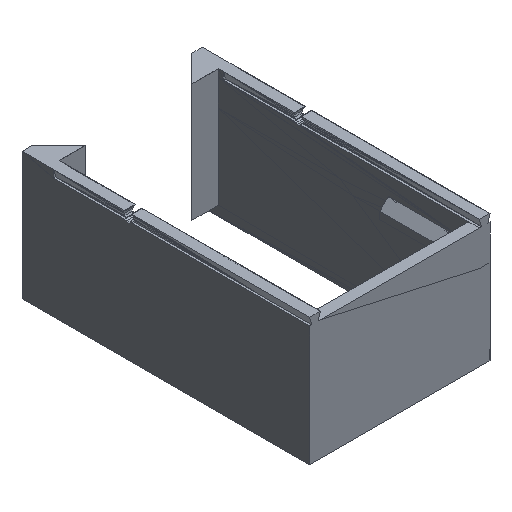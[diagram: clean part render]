
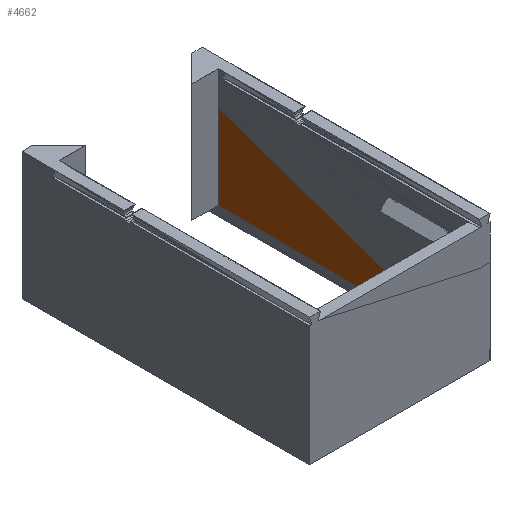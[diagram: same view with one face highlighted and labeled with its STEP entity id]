
A CAD part, isometric view. The second image highlights one B-rep face of the part: STEP entity #4662.
In plain terms, the highlighted planar face has unit normal (1, 0, 0).
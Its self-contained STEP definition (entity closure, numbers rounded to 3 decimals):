
#3522 = VERTEX_POINT('',#3523);
#3523 = CARTESIAN_POINT('',(14.9,19.95,
    -62.416));
#4596 = PLANE('',#4597);
#4597 = AXIS2_PLACEMENT_3D('',#4598,#4599,#4600);
#4598 = CARTESIAN_POINT('',(14.9,42.851,
    -52.693));
#4599 = DIRECTION('',(-1.,-0.,-0.));
#4600 = DIRECTION('',(0.,0.,-1.));
#4612 = VERTEX_POINT('',#4613);
#4613 = CARTESIAN_POINT('',(14.9,66.85,
    -46.2));
#4638 = EDGE_CURVE('',#4612,#3522,#4639,.T.);
#4639 = SURFACE_CURVE('',#4640,(#4644,#4651),.PCURVE_S1.);
#4640 = LINE('',#4641,#4642);
#4641 = CARTESIAN_POINT('',(14.9,66.85,
    -46.2));
#4642 = VECTOR('',#4643,1.);
#4643 = DIRECTION('',(0.,-0.945,-0.327));
#4644 = PCURVE('',#4596,#4645);
#4645 = DEFINITIONAL_REPRESENTATION('',(#4646),#4650);
#4646 = LINE('',#4647,#4648);
#4647 = CARTESIAN_POINT('',(-6.493,-23.999));
#4648 = VECTOR('',#4649,1.);
#4649 = DIRECTION('',(0.327,0.945));
#4650 = ( GEOMETRIC_REPRESENTATION_CONTEXT(2) 
PARAMETRIC_REPRESENTATION_CONTEXT() REPRESENTATION_CONTEXT('2D SPACE',''
  ) );
#4651 = PCURVE('',#4652,#4657);
#4652 = PLANE('',#4653);
#4653 = AXIS2_PLACEMENT_3D('',#4654,#4655,#4656);
#4654 = CARTESIAN_POINT('',(14.9,46.69,
    -57.565));
#4655 = DIRECTION('',(-1.,-0.,-0.));
#4656 = DIRECTION('',(0.,0.,-1.));
#4657 = DEFINITIONAL_REPRESENTATION('',(#4658),#4661);
#4658 = B_SPLINE_CURVE_WITH_KNOTS('',1,(#4659,#4660),.UNSPECIFIED.,.F.,
  .F.,(2,2),(0.,49.624),.PIECEWISE_BEZIER_KNOTS.);
#4659 = CARTESIAN_POINT('',(-11.365,-20.16));
#4660 = CARTESIAN_POINT('',(4.851,26.74));
#4661 = ( GEOMETRIC_REPRESENTATION_CONTEXT(2) 
PARAMETRIC_REPRESENTATION_CONTEXT() REPRESENTATION_CONTEXT('2D SPACE',''
  ) );
#4662 = ADVANCED_FACE('',(#4663),#4652,.F.);
#4663 = FACE_BOUND('',#4664,.F.);
#4664 = EDGE_LOOP('',(#4665,#4666,#4694));
#4665 = ORIENTED_EDGE('',*,*,#4638,.F.);
#4666 = ORIENTED_EDGE('',*,*,#4667,.T.);
#4667 = EDGE_CURVE('',#4612,#4668,#4670,.T.);
#4668 = VERTEX_POINT('',#4669);
#4669 = CARTESIAN_POINT('',(14.9,66.85,
    -61.95));
#4670 = SURFACE_CURVE('',#4671,(#4675,#4682),.PCURVE_S1.);
#4671 = LINE('',#4672,#4673);
#4672 = CARTESIAN_POINT('',(14.9,66.85,
    -46.2));
#4673 = VECTOR('',#4674,1.);
#4674 = DIRECTION('',(0.,0.,-1.));
#4675 = PCURVE('',#4652,#4676);
#4676 = DEFINITIONAL_REPRESENTATION('',(#4677),#4681);
#4677 = LINE('',#4678,#4679);
#4678 = CARTESIAN_POINT('',(-11.365,-20.16));
#4679 = VECTOR('',#4680,1.);
#4680 = DIRECTION('',(1.,0.));
#4681 = ( GEOMETRIC_REPRESENTATION_CONTEXT(2) 
PARAMETRIC_REPRESENTATION_CONTEXT() REPRESENTATION_CONTEXT('2D SPACE',''
  ) );
#4682 = PCURVE('',#4683,#4688);
#4683 = PLANE('',#4684);
#4684 = AXIS2_PLACEMENT_3D('',#4685,#4686,#4687);
#4685 = CARTESIAN_POINT('',(13.466,66.85,
    -55.126));
#4686 = DIRECTION('',(-0.,-1.,-0.));
#4687 = DIRECTION('',(0.,0.,-1.));
#4688 = DEFINITIONAL_REPRESENTATION('',(#4689),#4693);
#4689 = LINE('',#4690,#4691);
#4690 = CARTESIAN_POINT('',(-8.926,1.434));
#4691 = VECTOR('',#4692,1.);
#4692 = DIRECTION('',(1.,0.));
#4693 = ( GEOMETRIC_REPRESENTATION_CONTEXT(2) 
PARAMETRIC_REPRESENTATION_CONTEXT() REPRESENTATION_CONTEXT('2D SPACE',''
  ) );
#4694 = ORIENTED_EDGE('',*,*,#4695,.F.);
#4695 = EDGE_CURVE('',#3522,#4668,#4696,.T.);
#4696 = SURFACE_CURVE('',#4697,(#4701,#4707),.PCURVE_S1.);
#4697 = LINE('',#4698,#4699);
#4698 = CARTESIAN_POINT('',(14.9,19.95,
    -62.416));
#4699 = VECTOR('',#4700,1.);
#4700 = DIRECTION('',(0.,1.,0.01));
#4701 = PCURVE('',#4652,#4702);
#4702 = DEFINITIONAL_REPRESENTATION('',(#4703),#4706);
#4703 = B_SPLINE_CURVE_WITH_KNOTS('',1,(#4704,#4705),.UNSPECIFIED.,.F.,
  .F.,(2,2),(0.,46.902),.PIECEWISE_BEZIER_KNOTS.);
#4704 = CARTESIAN_POINT('',(4.851,26.74));
#4705 = CARTESIAN_POINT('',(4.385,-20.16));
#4706 = ( GEOMETRIC_REPRESENTATION_CONTEXT(2) 
PARAMETRIC_REPRESENTATION_CONTEXT() REPRESENTATION_CONTEXT('2D SPACE',''
  ) );
#4707 = PCURVE('',#4708,#4713);
#4708 = PLANE('',#4709);
#4709 = AXIS2_PLACEMENT_3D('',#4710,#4711,#4712);
#4710 = CARTESIAN_POINT('',(14.9,45.956,
    -62.665));
#4711 = DIRECTION('',(-1.,-0.,-0.));
#4712 = DIRECTION('',(0.,0.,-1.));
#4713 = DEFINITIONAL_REPRESENTATION('',(#4714),#4718);
#4714 = LINE('',#4715,#4716);
#4715 = CARTESIAN_POINT('',(-0.25,26.006));
#4716 = VECTOR('',#4717,1.);
#4717 = DIRECTION('',(-0.01,-1.));
#4718 = ( GEOMETRIC_REPRESENTATION_CONTEXT(2) 
PARAMETRIC_REPRESENTATION_CONTEXT() REPRESENTATION_CONTEXT('2D SPACE',''
  ) );
